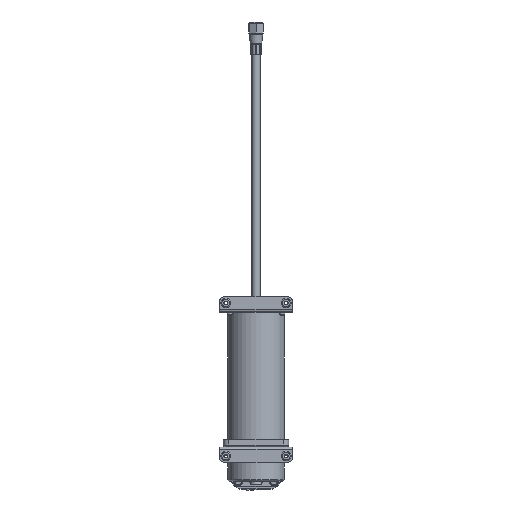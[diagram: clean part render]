
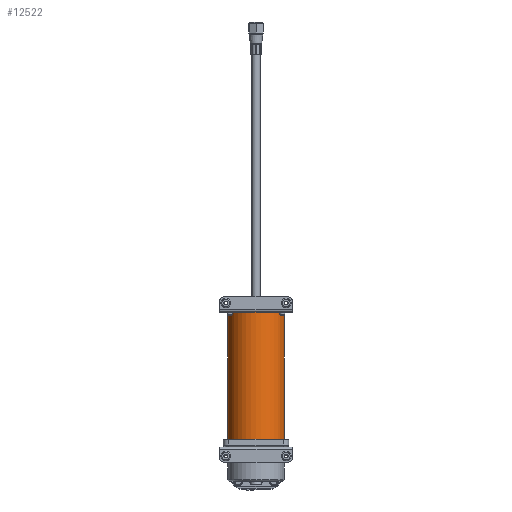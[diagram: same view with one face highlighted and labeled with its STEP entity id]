
A CAD part, front view. The second image highlights one B-rep face of the part: STEP entity #12522.
In plain terms, the highlighted cylindrical face has radius 38.925 mm (diameter 77.851 mm), a partial arc.
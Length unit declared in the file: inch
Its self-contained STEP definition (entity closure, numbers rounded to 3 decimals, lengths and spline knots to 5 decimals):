
#3301 = ORIENTED_EDGE ( 'NONE', *, *, #72169, .T. ) ;
#3828 = ORIENTED_EDGE ( 'NONE', *, *, #20456, .T. ) ;
#4786 = AXIS2_PLACEMENT_3D ( 'NONE', #51266, #15379, #57297 ) ;
#5921 = VECTOR ( 'NONE', #22055, 39.37008 ) ;
#6158 = CARTESIAN_POINT ( 'NONE',  ( 1.5325, 0., 7.275 ) ) ;
#7815 = VERTEX_POINT ( 'NONE', #21781 ) ;
#8714 = AXIS2_PLACEMENT_3D ( 'NONE', #26246, #68156, #32239 ) ;
#12522 = ADVANCED_FACE ( 'NONE', ( #14231 ), #22681, .T. ) ;
#14231 = FACE_OUTER_BOUND ( 'NONE', #30509, .T. ) ;
#15379 = DIRECTION ( 'NONE',  ( 0., 0., 1. ) ) ;
#20456 = EDGE_CURVE ( 'NONE', #68575, #7815, #37180, .T. ) ;
#20546 = DIRECTION ( 'NONE',  ( -1., 0., 0. ) ) ;
#20692 = LINE ( 'NONE', #6158, #34766 ) ;
#21781 = CARTESIAN_POINT ( 'NONE',  ( 1.5325, 0., 0.275 ) ) ;
#21843 = LINE ( 'NONE', #51882, #5921 ) ;
#22055 = DIRECTION ( 'NONE',  ( 0., 0., -1. ) ) ;
#22681 = CYLINDRICAL_SURFACE ( 'NONE', #47451, 1.5325 ) ;
#25100 = CARTESIAN_POINT ( 'NONE',  ( -1.5325, 0., 7.275 ) ) ;
#26246 = CARTESIAN_POINT ( 'NONE',  ( 0., 0., 7.275 ) ) ;
#26548 = ORIENTED_EDGE ( 'NONE', *, *, #75048, .F. ) ;
#30509 = EDGE_LOOP ( 'NONE', ( #43295, #26548, #3301, #3828 ) ) ;
#30899 = CARTESIAN_POINT ( 'NONE',  ( 1.5325, 0., 7.275 ) ) ;
#30970 = EDGE_CURVE ( 'NONE', #56963, #7815, #20692, .T. ) ;
#32239 = DIRECTION ( 'NONE',  ( 1., 0., 0. ) ) ;
#32332 = DIRECTION ( 'NONE',  ( 0., 0., -1. ) ) ;
#34766 = VECTOR ( 'NONE', #65885, 39.37008 ) ;
#37180 = CIRCLE ( 'NONE', #4786, 1.5325 ) ;
#43295 = ORIENTED_EDGE ( 'NONE', *, *, #30970, .F. ) ;
#47451 = AXIS2_PLACEMENT_3D ( 'NONE', #56407, #32332, #20546 ) ;
#51266 = CARTESIAN_POINT ( 'NONE',  ( 0., 0., 0.275 ) ) ;
#51882 = CARTESIAN_POINT ( 'NONE',  ( -1.5325, 0., 7.275 ) ) ;
#56407 = CARTESIAN_POINT ( 'NONE',  ( 0., 0., 7.275 ) ) ;
#56963 = VERTEX_POINT ( 'NONE', #30899 ) ;
#57297 = DIRECTION ( 'NONE',  ( 1., 0., 0. ) ) ;
#59144 = CIRCLE ( 'NONE', #8714, 1.5325 ) ;
#62124 = VERTEX_POINT ( 'NONE', #25100 ) ;
#63769 = CARTESIAN_POINT ( 'NONE',  ( -1.5325, 0., 0.275 ) ) ;
#65885 = DIRECTION ( 'NONE',  ( 0., 0., -1. ) ) ;
#68156 = DIRECTION ( 'NONE',  ( 0., 0., 1. ) ) ;
#68575 = VERTEX_POINT ( 'NONE', #63769 ) ;
#72169 = EDGE_CURVE ( 'NONE', #62124, #68575, #21843, .T. ) ;
#75048 = EDGE_CURVE ( 'NONE', #62124, #56963, #59144, .T. ) ;
